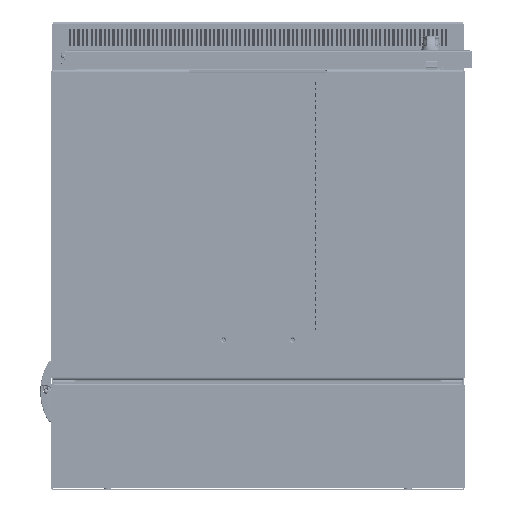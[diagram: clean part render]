
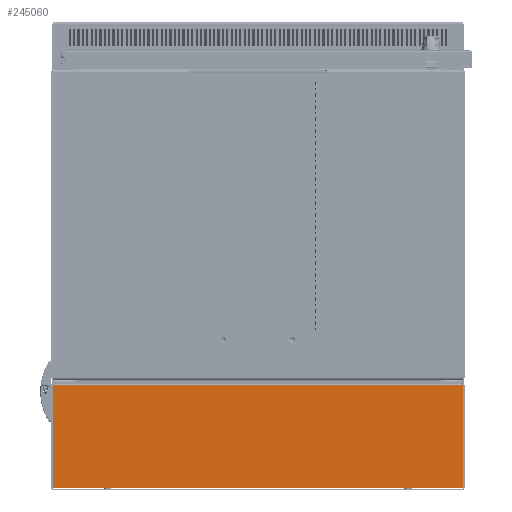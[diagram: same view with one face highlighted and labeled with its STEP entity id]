
A CAD part, front view. The second image highlights one B-rep face of the part: STEP entity #245060.
In plain terms, the highlighted planar face has unit normal (0, -1, 0) as drawn and (0, 1, 0) by its records, which use the part's own axes.
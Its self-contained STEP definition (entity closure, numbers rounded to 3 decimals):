
#119370 = LINE ( 'NONE', #128096, #119373 ) ;
#119373 = VECTOR ( 'NONE', #128099, 1000. ) ;
#119376 = LINE ( 'NONE', #128103, #119379 ) ;
#119379 = VECTOR ( 'NONE', #128113, 1000. ) ;
#119393 = LINE ( 'NONE', #128131, #119396 ) ;
#119396 = VECTOR ( 'NONE', #128134, 1000. ) ;
#119412 = VECTOR ( 'NONE', #128208, 1000. ) ;
#119426 = LINE ( 'NONE', #128175, #119429 ) ;
#119429 = VECTOR ( 'NONE', #128178, 1000. ) ;
#119441 = LINE ( 'NONE', #128187, #119412 ) ;
#119447 = LINE ( 'NONE', #128211, #119450 ) ;
#119450 = VECTOR ( 'NONE', #128214, 1000. ) ;
#128096 = CARTESIAN_POINT ( 'NONE',  ( -297.57, 1.829, -151.63 ) ) ;
#128099 = DIRECTION ( 'NONE',  ( -1., 0., 0. ) ) ;
#128103 = CARTESIAN_POINT ( 'NONE',  ( -297.57, 1.829, -151.63 ) ) ;
#128113 = DIRECTION ( 'NONE',  ( 0., 0., 1. ) ) ;
#128131 = CARTESIAN_POINT ( 'NONE',  ( 295.47, 1.829, -1.879 ) ) ;
#128134 = DIRECTION ( 'NONE',  ( 1., 0., 0. ) ) ;
#128175 = CARTESIAN_POINT ( 'NONE',  ( 297.57, 1.829, -151.63 ) ) ;
#128178 = DIRECTION ( 'NONE',  ( 0., 0., -1. ) ) ;
#128187 = CARTESIAN_POINT ( 'NONE',  ( -297.57, 1.829, -1.879 ) ) ;
#128208 = DIRECTION ( 'NONE',  ( 1., 0., 0. ) ) ;
#128211 = CARTESIAN_POINT ( 'NONE',  ( -297.57, 1.829, -1.879 ) ) ;
#128214 = DIRECTION ( 'NONE',  ( 1., 0., 0. ) ) ;
#146364 = EDGE_CURVE ( 'NONE', #164484, #164480, #119370, .T. ) ;
#146371 = EDGE_CURVE ( 'NONE', #164480, #164477, #119376, .T. ) ;
#146381 = EDGE_CURVE ( 'NONE', #164496, #164487, #119393, .T. ) ;
#146402 = EDGE_CURVE ( 'NONE', #164487, #164484, #119426, .T. ) ;
#146413 = EDGE_CURVE ( 'NONE', #164493, #164496, #119441, .T. ) ;
#146418 = EDGE_CURVE ( 'NONE', #164477, #164493, #119447, .T. ) ;
#164477 = VERTEX_POINT ( 'NONE', #164929 ) ;
#164480 = VERTEX_POINT ( 'NONE', #164932 ) ;
#164484 = VERTEX_POINT ( 'NONE', #164938 ) ;
#164487 = VERTEX_POINT ( 'NONE', #164941 ) ;
#164493 = VERTEX_POINT ( 'NONE', #164946 ) ;
#164496 = VERTEX_POINT ( 'NONE', #164949 ) ;
#164929 = CARTESIAN_POINT ( 'NONE',  ( -297.57, 1.829, -1.879 ) ) ;
#164932 = CARTESIAN_POINT ( 'NONE',  ( -297.57, 1.829, -151.63 ) ) ;
#164938 = CARTESIAN_POINT ( 'NONE',  ( 297.57, 1.829, -151.63 ) ) ;
#164941 = CARTESIAN_POINT ( 'NONE',  ( 297.57, 1.829, -1.879 ) ) ;
#164946 = CARTESIAN_POINT ( 'NONE',  ( -295.47, 1.829, -1.879 ) ) ;
#164949 = CARTESIAN_POINT ( 'NONE',  ( 295.47, 1.829, -1.879 ) ) ;
#179698 = ORIENTED_EDGE ( 'NONE', *, *, #146418, .T. ) ;
#179704 = ORIENTED_EDGE ( 'NONE', *, *, #146413, .T. ) ;
#179709 = ORIENTED_EDGE ( 'NONE', *, *, #146381, .T. ) ;
#179715 = ORIENTED_EDGE ( 'NONE', *, *, #146402, .T. ) ;
#179720 = ORIENTED_EDGE ( 'NONE', *, *, #146364, .T. ) ;
#179726 = ORIENTED_EDGE ( 'NONE', *, *, #146371, .T. ) ;
#205220 = EDGE_LOOP ( 'NONE', ( #179698, #179704, #179709, #179715, #179720, #179726 ) ) ;
#245060 = ADVANCED_FACE ( 'NONE', ( #268292 ), #278045, .T. ) ;
#258583 = AXIS2_PLACEMENT_3D ( 'NONE', #278034, #278059, #278060 ) ;
#268292 = FACE_OUTER_BOUND ( 'NONE', #205220, .T. ) ;
#278034 = CARTESIAN_POINT ( 'NONE',  ( 297.57, 1.829, 0. ) ) ;
#278045 = PLANE ( 'NONE',  #258583 ) ;
#278059 = DIRECTION ( 'NONE',  ( 0., 1., 0. ) ) ;
#278060 = DIRECTION ( 'NONE',  ( 0., 0., 1. ) ) ;
